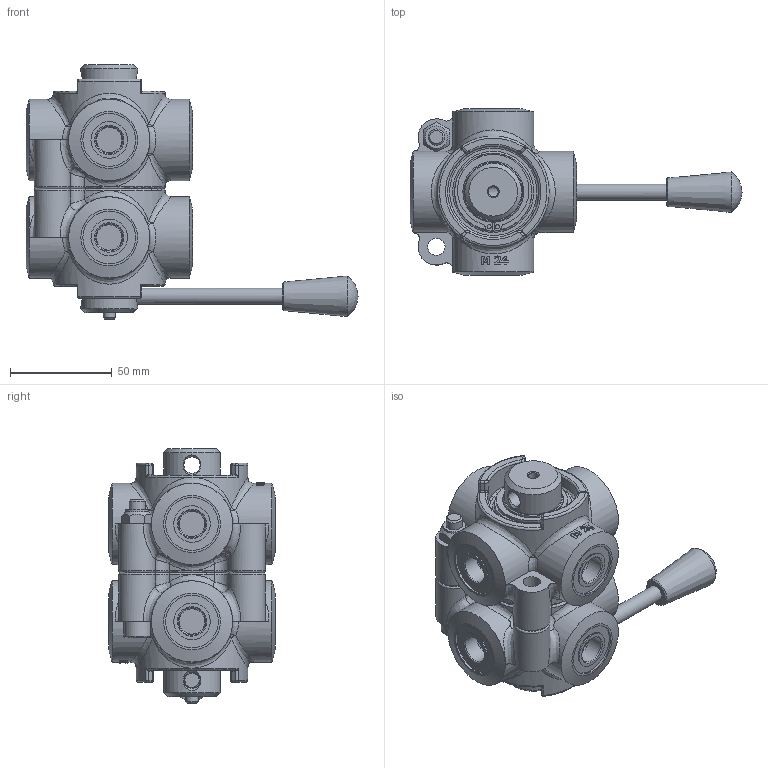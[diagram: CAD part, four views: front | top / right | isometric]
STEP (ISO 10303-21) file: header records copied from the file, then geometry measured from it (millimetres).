
FILE_DESCRIPTION((''),'2;1');
FILE_NAME('G:\HV_HYDRAULIC\AZIENDA_HV_HYDRAULIC\ARCHIVIO_DISEGNI\5_PRODOTTI_FINITI\2_DEVIATORI_INVERTITORI\7005_D8\7005.0100_D8_3-8_G_ca_(HV)\7005.0100.stp','2024-08-30T08:11:52',('christian.scardovi'),(''),'Autodesk Inventor 2013','Autodesk Inventor 2013','');
FILE_SCHEMA(('AUTOMOTIVE_DESIGN { 1 0 10303 214 1 1 1 1 }'));
Length unit declared in the file: millimetre
Products named in the file (1): 7005.0100
Bounding box: 163.5 x 82 x 125.25 mm (x, y, z)
Volume: 415679.6 mm3; surface area: 57044.8 mm2
Topology: 1 solids, 1 shells, 516 faces, 1208 edges, 718 vertices
Faces by surface type: plane 156, cylinder 137, bspline 86, torus 85, cone 31, sphere 21
Full cylindrical faces by diameter (mm): 2 x4, 4.917 x1, 6 x1, 8 x4, 8.5 x1, 11.05 x1, 13 x1, 13.5 x8, 18 x8, 26 x8, 28 x2, 28.6 x2, 29.9 x2, 38 x2, 40 x8, 45 x2
Entity records: 24145 total; most frequent: CARTESIAN_POINT 12998, ORIENTED_EDGE 2110, DIRECTION 2095, EDGE_CURVE 1055, AXIS2_PLACEMENT_3D 917, VERTEX_POINT 698, EDGE_LOOP 681, FACE_OUTER_BOUND 516
